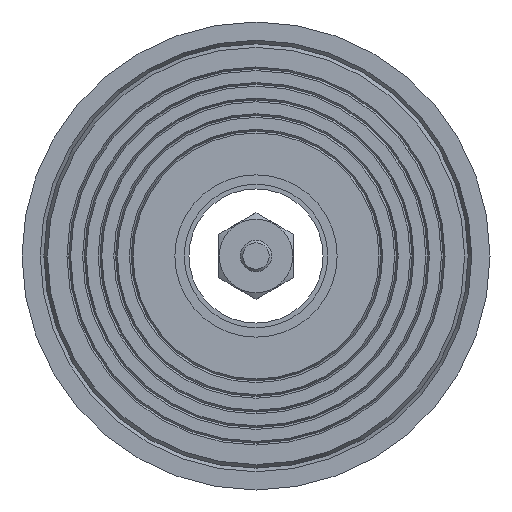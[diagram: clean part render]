
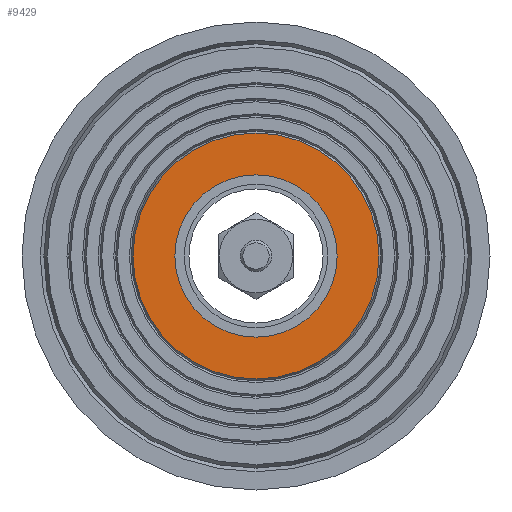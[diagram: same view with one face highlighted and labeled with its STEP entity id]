
A CAD part, front view. The second image highlights one B-rep face of the part: STEP entity #9429.
In plain terms, the highlighted planar face has unit normal (0, -1, 0).
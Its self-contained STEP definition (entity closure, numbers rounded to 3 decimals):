
#1994=PLANE('',#10056);
#2206=CIRCLE('',#10055,19.711);
#2207=CIRCLE('',#10057,13.);
#2706=VERTEX_POINT('',#13621);
#2707=VERTEX_POINT('',#13624);
#3926=EDGE_CURVE('',#2706,#2706,#2206,.T.);
#3927=EDGE_CURVE('',#2707,#2707,#2207,.T.);
#5953=ORIENTED_EDGE('',*,*,#3927,.T.);
#5954=ORIENTED_EDGE('',*,*,#3926,.T.);
#8058=EDGE_LOOP('',(#5953));
#8059=EDGE_LOOP('',(#5954));
#8772=FACE_BOUND('',#8058,.T.);
#8773=FACE_BOUND('',#8059,.T.);
#9429=ADVANCED_FACE('',(#8772,#8773),#1994,.T.);
#10055=AXIS2_PLACEMENT_3D('',#13620,#18202,#18203);
#10056=AXIS2_PLACEMENT_3D('',#13622,#18204,$);
#10057=AXIS2_PLACEMENT_3D('',#13623,#18205,#18206);
#13620=CARTESIAN_POINT('',(0.,0.,0.));
#13621=CARTESIAN_POINT('',(19.711,0.,0.));
#13622=CARTESIAN_POINT('',(25.25,0.,0.));
#13623=CARTESIAN_POINT('',(0.,0.,0.));
#13624=CARTESIAN_POINT('',(13.,0.,0.));
#18202=DIRECTION('',(0.,-1.,0.));
#18203=DIRECTION('',(19.711,0.,0.));
#18204=DIRECTION('',(0.,-1.,0.));
#18205=DIRECTION('',(0.,1.,0.));
#18206=DIRECTION('',(13.,0.,0.));
